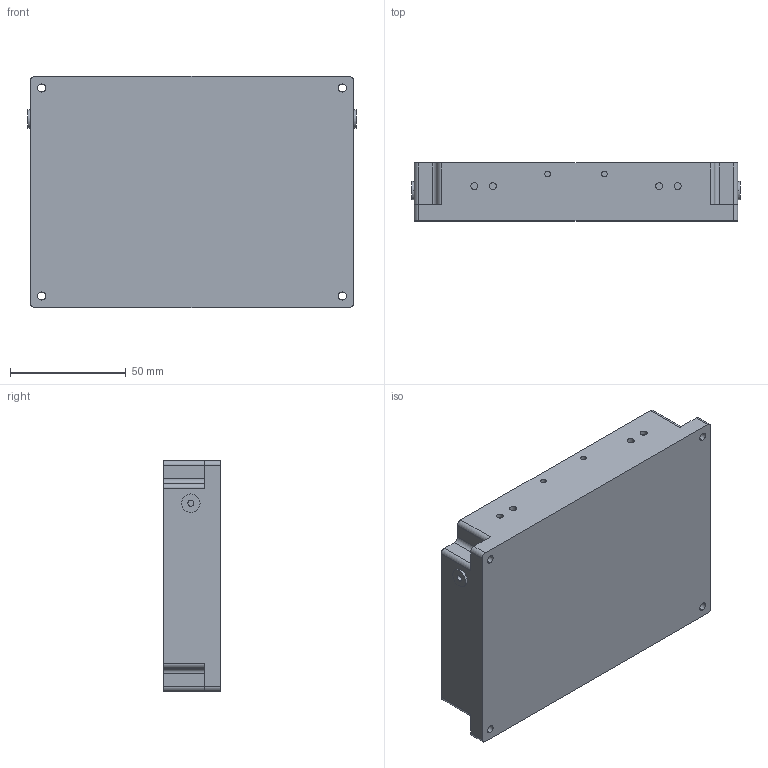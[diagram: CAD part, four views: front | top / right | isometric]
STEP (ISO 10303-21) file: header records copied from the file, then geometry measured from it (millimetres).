
FILE_DESCRIPTION(/* description */ (''),/* implementation_level */ '2;1');
FILE_NAME(/* name */ '新装配体_stp.stp',/* time_stamp */ '2026-07-21T15:32:41+08:00',/* author */ (''),/* organization */ (''),/* preprocessor_version */ 'ST-DEVELOPER v20.1',/* originating_system */ 'SIEMENS PLM Software NX2512.1700',/* authorisation */ '');
FILE_SCHEMA (('AUTOMOTIVE_DESIGN { 1 0 10303 214 3 1 1 1 }'));
Length unit declared in the file: millimetre
Products named in the file (2): EDFA-A上盖_step; 装配体_stp
Assembly tree (1 placements, depth 2):
  装配体_stp
    EDFA-A上盖_step
Bounding box: 142 x 25 x 100 mm (x, y, z)
Volume: 328144.1 mm3; surface area: 69870 mm2
Topology: 2 solids, 5 shells, 287 faces, 742 edges, 496 vertices
Faces by surface type: cylinder 152, plane 127, cone 8
Full cylindrical faces by diameter (mm): 2.1 x4
Entity records: 9023 total; most frequent: DIRECTION 1648, CARTESIAN_POINT 1539, ORIENTED_EDGE 1492, EDGE_CURVE 746, AXIS2_PLACEMENT_3D 613, VERTEX_POINT 504, LINE 422, VECTOR 422
